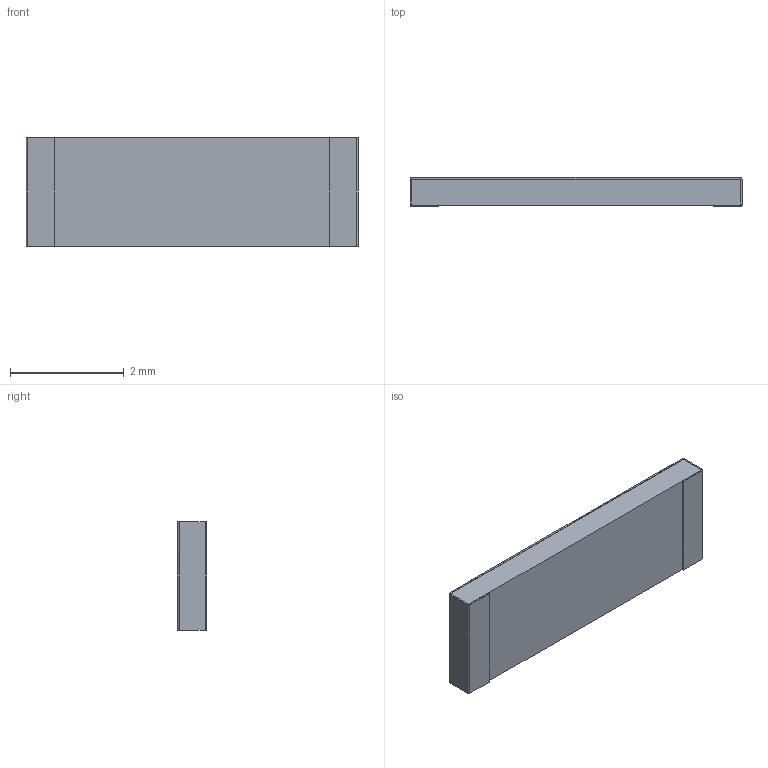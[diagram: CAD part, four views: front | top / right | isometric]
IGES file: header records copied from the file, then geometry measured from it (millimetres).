
Global section: file name: M55342-05; native system: Autodesk Inventor LT ; preprocessor: unknown; author: Neil; date: 20190911.151050; units: inch
Bounding box: 5.84 x 0.52 x 1.91 mm (x, y, z)
Volume: 5.5 mm3; surface area: 73.6 mm2
Topology: 5 solids, 5 shells, 50 faces, 120 edges, 80 vertices
Faces by surface type: bspline 50
